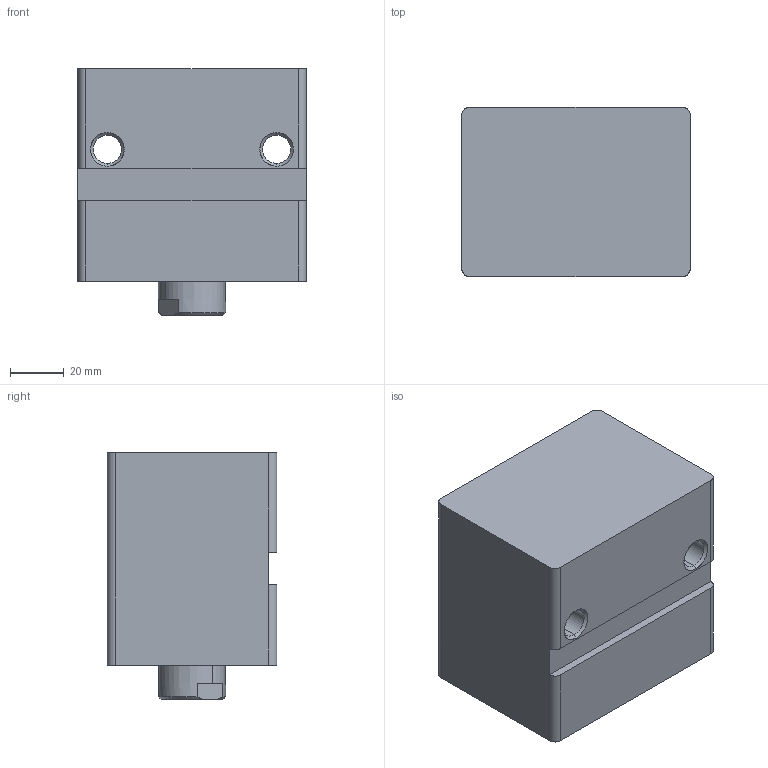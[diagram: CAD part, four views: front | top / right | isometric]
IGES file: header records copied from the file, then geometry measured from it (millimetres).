
Start section: SolidWorks IGES file using analytic representation for surfaces
Global section: file name: D:\KBZ_03_40_25_25_WEB.IGS; native system: SolidWorks 2018; preprocessor: SolidWorks 2018; author: cagdas; date: 200511.112719; units: millimetre
Bounding box: 85 x 63 x 91.7 mm (x, y, z)
Surface area: 69931 mm2 (no closed solid volume)
Topology: 0 solids, 0 shells, 332 faces, 4940 edges, 4940 vertices
Faces by surface type: bspline 224, revolution 108
